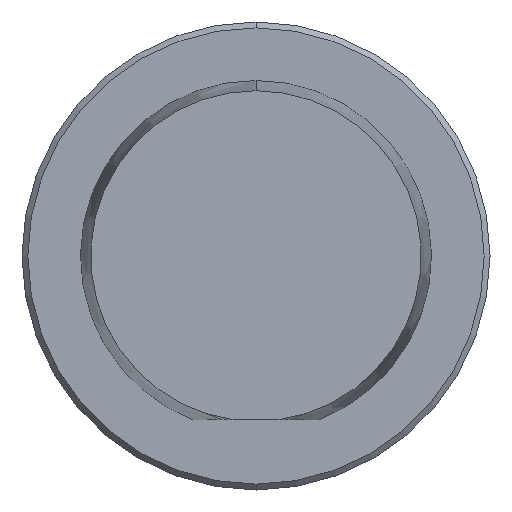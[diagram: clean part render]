
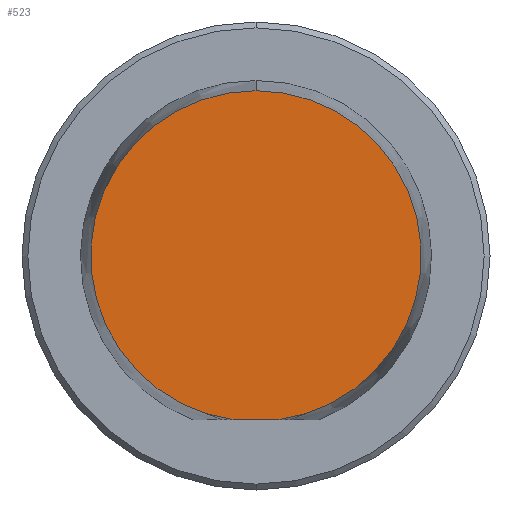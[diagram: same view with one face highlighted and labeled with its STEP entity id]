
A CAD part, front view. The second image highlights one B-rep face of the part: STEP entity #523.
In plain terms, the highlighted planar face has unit normal (0, -1, 0).
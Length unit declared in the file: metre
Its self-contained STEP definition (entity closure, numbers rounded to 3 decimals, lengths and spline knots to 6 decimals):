
#29 = VERTEX_POINT ( 'NONE', #186 ) ;
#35 = ORIENTED_EDGE ( 'NONE', *, *, #56, .F. ) ;
#41 = ORIENTED_EDGE ( 'NONE', *, *, #63, .F. ) ;
#56 = EDGE_CURVE ( 'NONE', #29, #189, #331, .T. ) ;
#63 = EDGE_CURVE ( 'NONE', #189, #534, #420, .T. ) ;
#92 = CARTESIAN_POINT ( 'NONE',  ( -0.000375, 0., -0.0028 ) ) ;
#129 = CARTESIAN_POINT ( 'NONE',  ( 0.000375, 0., -0.0028 ) ) ;
#186 = CARTESIAN_POINT ( 'NONE',  ( 0., 0., 0.002825 ) ) ;
#189 = VERTEX_POINT ( 'NONE', #129 ) ;
#264 = CIRCLE ( 'NONE', #265, 0.002825 ) ;
#265 = AXIS2_PLACEMENT_3D ( 'NONE', #266, #267, #268 ) ;
#266 = CARTESIAN_POINT ( 'NONE',  ( 0., 0., 0. ) ) ;
#267 = DIRECTION ( 'NONE',  ( 0., 1., 0. ) ) ;
#268 = DIRECTION ( 'NONE',  ( 0., 0., 1. ) ) ;
#331 = CIRCLE ( 'NONE', #332, 0.002825 ) ;
#332 = AXIS2_PLACEMENT_3D ( 'NONE', #333, #334, #335 ) ;
#333 = CARTESIAN_POINT ( 'NONE',  ( 0., 0., 0. ) ) ;
#334 = DIRECTION ( 'NONE',  ( 0., 1., 0. ) ) ;
#335 = DIRECTION ( 'NONE',  ( 0., 0., 1. ) ) ;
#368 = FACE_OUTER_BOUND ( 'NONE', #516, .T. ) ;
#369 = PLANE ( 'NONE',  #370 ) ;
#370 = AXIS2_PLACEMENT_3D ( 'NONE', #371, #372, #373 ) ;
#371 = CARTESIAN_POINT ( 'NONE',  ( 0., 0., 0. ) ) ;
#372 = DIRECTION ( 'NONE',  ( 0., -1., 0. ) ) ;
#373 = DIRECTION ( 'NONE',  ( 0., 0., -1. ) ) ;
#420 = LINE ( 'NONE', #421, #422 ) ;
#421 = CARTESIAN_POINT ( 'NONE',  ( -0.0077, 0., -0.0028 ) ) ;
#422 = VECTOR ( 'NONE',  #423 ,1. ) ;
#423 = DIRECTION ( 'NONE',  ( -1., 0., 0. ) ) ;
#516 = EDGE_LOOP ( 'NONE', ( #591, #41, #35 ) ) ;
#523 = ADVANCED_FACE ( 'NONE', ( #368 ), #369, .T. ) ;
#534 = VERTEX_POINT ( 'NONE', #92 ) ;
#558 = EDGE_CURVE ( 'NONE', #534, #29, #264, .T. ) ;
#591 = ORIENTED_EDGE ( 'NONE', *, *, #558, .F. ) ;
